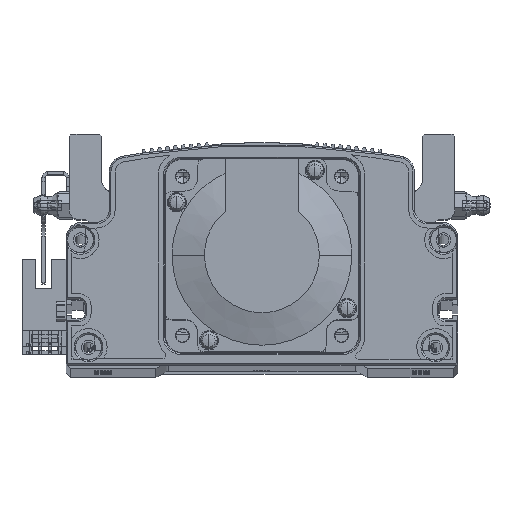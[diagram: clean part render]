
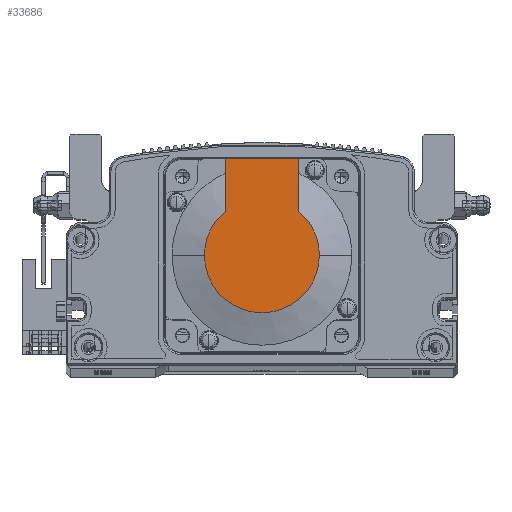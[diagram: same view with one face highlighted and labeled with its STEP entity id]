
A CAD part, top view. The second image highlights one B-rep face of the part: STEP entity #33686.
In plain terms, the highlighted planar face has unit normal (0, 0, 1) as drawn and (-1, 0, 0) by its records, which use the part's own axes.
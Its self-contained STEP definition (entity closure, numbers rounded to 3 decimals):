
#8535 = VERTEX_POINT ( 'NONE', #72918 ) ;
#8791 = FACE_OUTER_BOUND ( 'NONE', #9147, .T. ) ;
#9147 = EDGE_LOOP ( 'NONE', ( #44351, #42365, #55156, #56304, #41205, #45848 ) ) ;
#13003 = AXIS2_PLACEMENT_3D ( 'NONE', #87738, #73922, #88027 ) ;
#15387 = LINE ( 'NONE', #23715, #50369 ) ;
#17644 = EDGE_CURVE ( 'NONE', #71430, #65191, #15387, .T. ) ;
#18341 = CIRCLE ( 'NONE', #13003, 17.881 ) ;
#23715 = CARTESIAN_POINT ( 'NONE',  ( -118.5, 0., 11.45 ) ) ;
#25293 = PLANE ( 'NONE',  #47291 ) ;
#27069 = CIRCLE ( 'NONE', #57231, 17.881 ) ;
#31294 = DIRECTION ( 'NONE',  ( 0., -1., 0. ) ) ;
#32215 = CARTESIAN_POINT ( 'NONE',  ( -118.5, 0., 0. ) ) ;
#32325 = DIRECTION ( 'NONE',  ( 0., 0., 1. ) ) ;
#32591 = AXIS2_PLACEMENT_3D ( 'NONE', #48855, #70580, #50955 ) ;
#33220 = EDGE_CURVE ( 'NONE', #8535, #71430, #64678, .T. ) ;
#33686 = ADVANCED_FACE ( 'NONE', ( #8791 ), #25293, .T. ) ;
#38304 = CARTESIAN_POINT ( 'NONE',  ( -118.5, -8.941, -11.45 ) ) ;
#39896 = EDGE_CURVE ( 'NONE', #8535, #58103, #81349, .T. ) ;
#41205 = ORIENTED_EDGE ( 'NONE', *, *, #17644, .F. ) ;
#42365 = ORIENTED_EDGE ( 'NONE', *, *, #61174, .T. ) ;
#44351 = ORIENTED_EDGE ( 'NONE', *, *, #39896, .T. ) ;
#45848 = ORIENTED_EDGE ( 'NONE', *, *, #33220, .F. ) ;
#46870 = VERTEX_POINT ( 'NONE', #60888 ) ;
#47291 = AXIS2_PLACEMENT_3D ( 'NONE', #81538, #74198, #32325 ) ;
#48095 = EDGE_CURVE ( 'NONE', #52763, #65191, #18341, .T. ) ;
#48855 = CARTESIAN_POINT ( 'NONE',  ( -118.5, 0., 0. ) ) ;
#50369 = VECTOR ( 'NONE', #79944, 1000. ) ;
#50955 = DIRECTION ( 'NONE',  ( 0., 0., -1. ) ) ;
#51817 = EDGE_CURVE ( 'NONE', #46870, #52763, #80215, .T. ) ;
#52623 = VECTOR ( 'NONE', #67877, 1000. ) ;
#52763 = VERTEX_POINT ( 'NONE', #88473 ) ;
#55156 = ORIENTED_EDGE ( 'NONE', *, *, #51817, .T. ) ;
#56116 = VECTOR ( 'NONE', #31294, 1000. ) ;
#56304 = ORIENTED_EDGE ( 'NONE', *, *, #48095, .T. ) ;
#57231 = AXIS2_PLACEMENT_3D ( 'NONE', #32215, #68244, #81134 ) ;
#58103 = VERTEX_POINT ( 'NONE', #78460 ) ;
#60511 = CARTESIAN_POINT ( 'NONE',  ( -118.5, 30., 11.45 ) ) ;
#60888 = CARTESIAN_POINT ( 'NONE',  ( -118.5, 0., -17.881 ) ) ;
#61174 = EDGE_CURVE ( 'NONE', #58103, #46870, #27069, .T. ) ;
#64678 = LINE ( 'NONE', #68470, #52623 ) ;
#65191 = VERTEX_POINT ( 'NONE', #76691 ) ;
#67877 = DIRECTION ( 'NONE',  ( 0., 0., 1. ) ) ;
#68244 = DIRECTION ( 'NONE',  ( -1., 0., 0. ) ) ;
#68470 = CARTESIAN_POINT ( 'NONE',  ( -118.5, 30., 25. ) ) ;
#70580 = DIRECTION ( 'NONE',  ( -1., 0., 0. ) ) ;
#71430 = VERTEX_POINT ( 'NONE', #60511 ) ;
#72918 = CARTESIAN_POINT ( 'NONE',  ( -118.5, 30., -11.45 ) ) ;
#73922 = DIRECTION ( 'NONE',  ( -1., 0., 0. ) ) ;
#74198 = DIRECTION ( 'NONE',  ( -1., 0., 0. ) ) ;
#76691 = CARTESIAN_POINT ( 'NONE',  ( -118.5, 13.735, 11.45 ) ) ;
#78460 = CARTESIAN_POINT ( 'NONE',  ( -118.5, 13.735, -11.45 ) ) ;
#79944 = DIRECTION ( 'NONE',  ( 0., -1., 0. ) ) ;
#80215 = CIRCLE ( 'NONE', #32591, 17.881 ) ;
#81134 = DIRECTION ( 'NONE',  ( 0., 0., -1. ) ) ;
#81349 = LINE ( 'NONE', #38304, #56116 ) ;
#81538 = CARTESIAN_POINT ( 'NONE',  ( -118.5, -8.941, 0. ) ) ;
#87738 = CARTESIAN_POINT ( 'NONE',  ( -118.5, 0., 0. ) ) ;
#88027 = DIRECTION ( 'NONE',  ( 0., 0., -1. ) ) ;
#88473 = CARTESIAN_POINT ( 'NONE',  ( -118.5, 0., 17.881 ) ) ;
